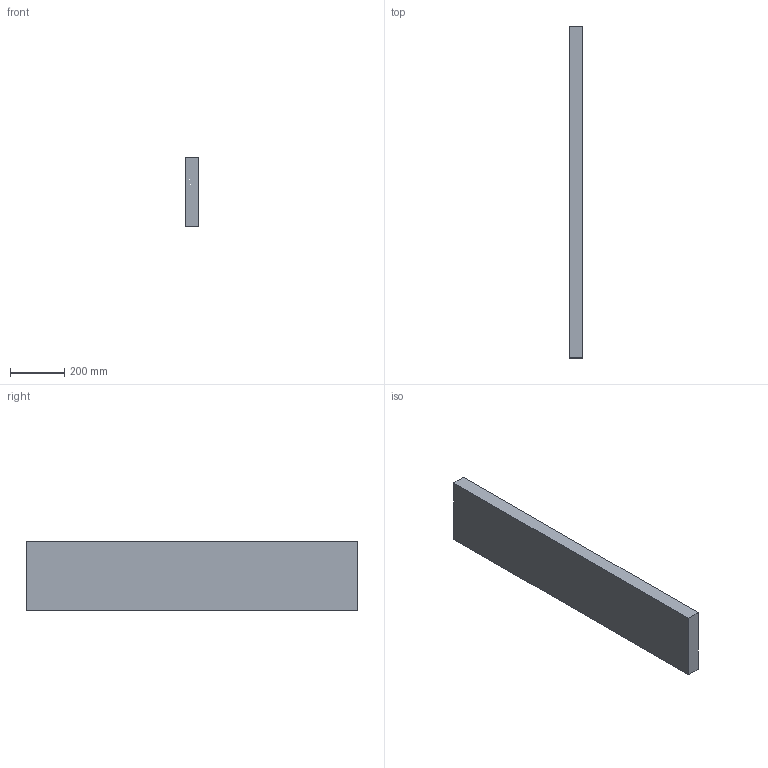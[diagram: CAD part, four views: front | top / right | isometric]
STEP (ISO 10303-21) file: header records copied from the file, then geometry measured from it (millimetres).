
FILE_DESCRIPTION(/* description */ (''),/* implementation_level */ '2;1');
FILE_NAME(/* name */ 'SM_Baffle2x10x48',/* time_stamp */ '2024-10-15T11:57:00-05:00',/* author */ (''),/* organization */ (''),/* preprocessor_version */ 'ST-DEVELOPER v19.2',/* originating_system */ 'Rhino 8.4',/* authorisation */ '');
FILE_SCHEMA (('CONFIG_CONTROL_DESIGN'));
Length unit declared in the file: inch
Products named in the file (1): Document
Bounding box: 50.8 x 1219.2 x 254 mm (x, y, z)
Volume: 15731581.4 mm3; surface area: 769030.7 mm2
Topology: 1 solids, 1 shells, 6 faces, 12 edges, 8 vertices
Faces by surface type: plane 6
Entity records: 226 total; most frequent: CARTESIAN_POINT 40, ORIENTED_EDGE 24, EDGE_CURVE 12, B_SPLINE_CURVE_WITH_KNOTS 12, DIRECTION 10, VERTEX_POINT 8, AXIS2_PLACEMENT_3D 8, ORGANIZATION 7
